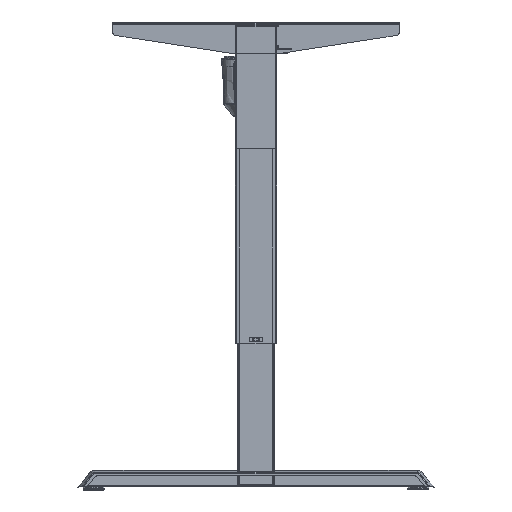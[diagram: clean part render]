
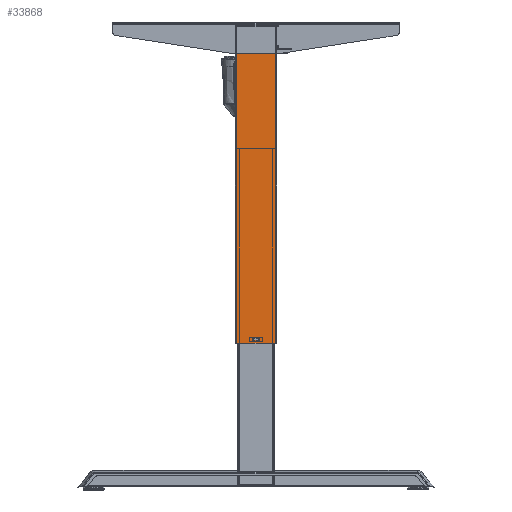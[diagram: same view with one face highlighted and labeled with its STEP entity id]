
A CAD part, left-side view. The second image highlights one B-rep face of the part: STEP entity #33868.
In plain terms, the highlighted planar face has unit normal (-1, 0, 0).
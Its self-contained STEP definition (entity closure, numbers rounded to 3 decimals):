
#762 = VERTEX_POINT ( 'NONE', #21387 ) ;
#1295 = CARTESIAN_POINT ( 'NONE',  ( -30., -37., 609. ) ) ;
#3240 = CARTESIAN_POINT ( 'NONE',  ( -30., 6., 10. ) ) ;
#3297 = ORIENTED_EDGE ( 'NONE', *, *, #69734, .T. ) ;
#3680 = ORIENTED_EDGE ( 'NONE', *, *, #8193, .T. ) ;
#8193 = EDGE_CURVE ( 'NONE', #62754, #47642, #57305, .T. ) ;
#10893 = ORIENTED_EDGE ( 'NONE', *, *, #61910, .T. ) ;
#11170 = LINE ( 'NONE', #15752, #71025 ) ;
#11792 = ORIENTED_EDGE ( 'NONE', *, *, #43287, .F. ) ;
#12129 = CARTESIAN_POINT ( 'NONE',  ( -30., 6., 6. ) ) ;
#12387 = DIRECTION ( 'NONE',  ( 0., 1., 0. ) ) ;
#13390 = CARTESIAN_POINT ( 'NONE',  ( -30., -6., 10. ) ) ;
#13727 = EDGE_CURVE ( 'NONE', #45755, #71599, #63387, .T. ) ;
#15488 = ORIENTED_EDGE ( 'NONE', *, *, #66060, .T. ) ;
#15752 = CARTESIAN_POINT ( 'NONE',  ( -30., -37., 614. ) ) ;
#18650 = LINE ( 'NONE', #40345, #64397 ) ;
#18683 = AXIS2_PLACEMENT_3D ( 'NONE', #69367, #18967, #53097 ) ;
#18967 = DIRECTION ( 'NONE',  ( 1., 0., 0. ) ) ;
#21387 = CARTESIAN_POINT ( 'NONE',  ( -30., 37., 609. ) ) ;
#23309 = VECTOR ( 'NONE', #49861, 1000. ) ;
#24499 = LINE ( 'NONE', #32536, #49115 ) ;
#26882 = DIRECTION ( 'NONE',  ( 0., 0., -1. ) ) ;
#27134 = CARTESIAN_POINT ( 'NONE',  ( -30., 37., 614. ) ) ;
#28010 = FACE_OUTER_BOUND ( 'NONE', #45597, .T. ) ;
#29915 = VECTOR ( 'NONE', #12387, 1000. ) ;
#31339 = CARTESIAN_POINT ( 'NONE',  ( -30., 6., 6. ) ) ;
#32536 = CARTESIAN_POINT ( 'NONE',  ( -30., 40., 609. ) ) ;
#32819 = CARTESIAN_POINT ( 'NONE',  ( -30., -6., 10. ) ) ;
#33868 = ADVANCED_FACE ( 'NONE', ( #42974, #28010 ), #63914, .F. ) ;
#37976 = LINE ( 'NONE', #27134, #69725 ) ;
#38230 = DIRECTION ( 'NONE',  ( 0., -1., 0. ) ) ;
#38249 = LINE ( 'NONE', #32819, #23309 ) ;
#40345 = CARTESIAN_POINT ( 'NONE',  ( -30., 37., 0. ) ) ;
#41213 = VECTOR ( 'NONE', #45693, 1000. ) ;
#42974 = FACE_BOUND ( 'NONE', #64192, .T. ) ;
#43287 = EDGE_CURVE ( 'NONE', #762, #53679, #24499, .T. ) ;
#43370 = ORIENTED_EDGE ( 'NONE', *, *, #61684, .T. ) ;
#45597 = EDGE_LOOP ( 'NONE', ( #46206, #11792, #43370, #10893 ) ) ;
#45693 = DIRECTION ( 'NONE',  ( 0., 0., 1. ) ) ;
#45755 = VERTEX_POINT ( 'NONE', #66561 ) ;
#46027 = DIRECTION ( 'NONE',  ( 0., -1., 0. ) ) ;
#46206 = ORIENTED_EDGE ( 'NONE', *, *, #46478, .F. ) ;
#46478 = EDGE_CURVE ( 'NONE', #53679, #57550, #11170, .T. ) ;
#47254 = CARTESIAN_POINT ( 'NONE',  ( -30., 6., 10. ) ) ;
#47642 = VERTEX_POINT ( 'NONE', #13390 ) ;
#49115 = VECTOR ( 'NONE', #38230, 1000. ) ;
#49636 = DIRECTION ( 'NONE',  ( 0., 0., -1. ) ) ;
#49861 = DIRECTION ( 'NONE',  ( 0., 0., -1. ) ) ;
#53097 = DIRECTION ( 'NONE',  ( 0., 1., 0. ) ) ;
#53679 = VERTEX_POINT ( 'NONE', #1295 ) ;
#57305 = LINE ( 'NONE', #3240, #72302 ) ;
#57550 = VERTEX_POINT ( 'NONE', #61531 ) ;
#59478 = DIRECTION ( 'NONE',  ( 0., -1., 0. ) ) ;
#61531 = CARTESIAN_POINT ( 'NONE',  ( -30., -37., 0. ) ) ;
#61684 = EDGE_CURVE ( 'NONE', #762, #61877, #37976, .T. ) ;
#61877 = VERTEX_POINT ( 'NONE', #68444 ) ;
#61910 = EDGE_CURVE ( 'NONE', #61877, #57550, #18650, .T. ) ;
#62154 = CARTESIAN_POINT ( 'NONE',  ( -30., 6., 10. ) ) ;
#62754 = VERTEX_POINT ( 'NONE', #47254 ) ;
#63387 = LINE ( 'NONE', #12129, #29915 ) ;
#63914 = PLANE ( 'NONE',  #18683 ) ;
#64192 = EDGE_LOOP ( 'NONE', ( #15488, #3680, #3297, #67605 ) ) ;
#64397 = VECTOR ( 'NONE', #46027, 1000. ) ;
#65030 = LINE ( 'NONE', #62154, #41213 ) ;
#66060 = EDGE_CURVE ( 'NONE', #71599, #62754, #65030, .T. ) ;
#66561 = CARTESIAN_POINT ( 'NONE',  ( -30., -6., 6. ) ) ;
#67605 = ORIENTED_EDGE ( 'NONE', *, *, #13727, .T. ) ;
#68444 = CARTESIAN_POINT ( 'NONE',  ( -30., 37., 0. ) ) ;
#69367 = CARTESIAN_POINT ( 'NONE',  ( -30., 37., 614. ) ) ;
#69725 = VECTOR ( 'NONE', #26882, 1000. ) ;
#69734 = EDGE_CURVE ( 'NONE', #47642, #45755, #38249, .T. ) ;
#71025 = VECTOR ( 'NONE', #49636, 1000. ) ;
#71599 = VERTEX_POINT ( 'NONE', #31339 ) ;
#72302 = VECTOR ( 'NONE', #59478, 1000. ) ;
